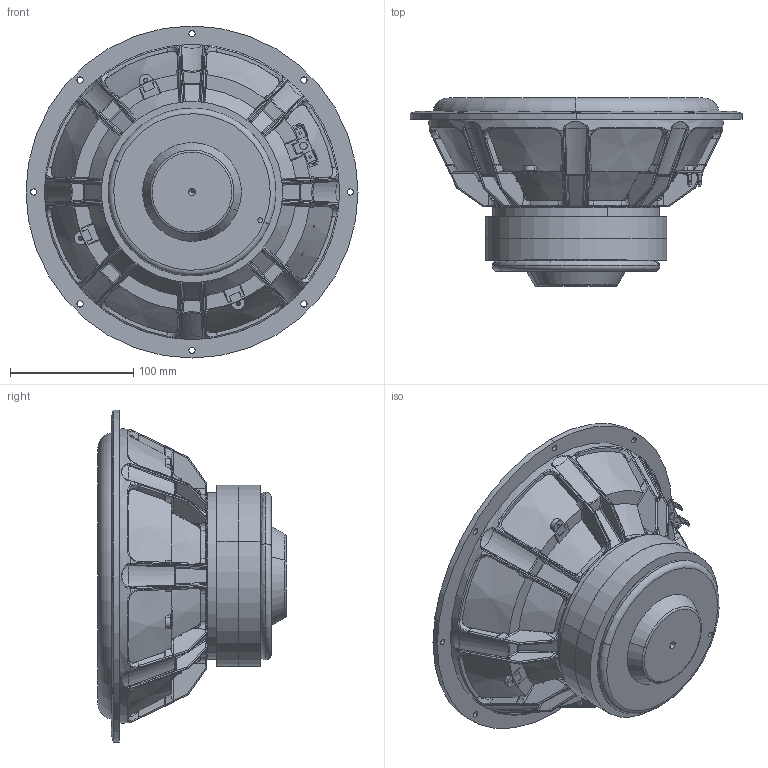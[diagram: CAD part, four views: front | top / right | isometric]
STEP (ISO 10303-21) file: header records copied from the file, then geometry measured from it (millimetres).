
FILE_DESCRIPTION (( 'STEP AP214' ), '1' );
FILE_NAME ('26W-4558T00.STEP', '2020-10-22T08:38:20', ( '' ), ( '' ), 'SwSTEP 2.0', 'SolidWorks 2019', '' );
FILE_SCHEMA (( 'AUTOMOTIVE_DESIGN' ));
Length unit declared in the file: millimetre
Products named in the file (1): 26W-4558T00
Bounding box: 269.2 x 152.56 x 269.2 mm (x, y, z)
Volume: 3225824.6 mm3; surface area: 274568.5 mm2
Topology: 2 solids, 8 shells, 1368 faces, 3528 edges, 2165 vertices
Faces by surface type: cylinder 434, bspline 384, plane 345, torus 98, sphere 60, cone 47
Entity records: 68834 total; most frequent: CARTESIAN_POINT 25112, ORIENTED_EDGE 7024, DIRECTION 5058, EDGE_CURVE 3512, VERTEX_POINT 2165, AXIS2_PLACEMENT_3D 2007, EDGE_LOOP 1421, ADVANCED_FACE 1368
